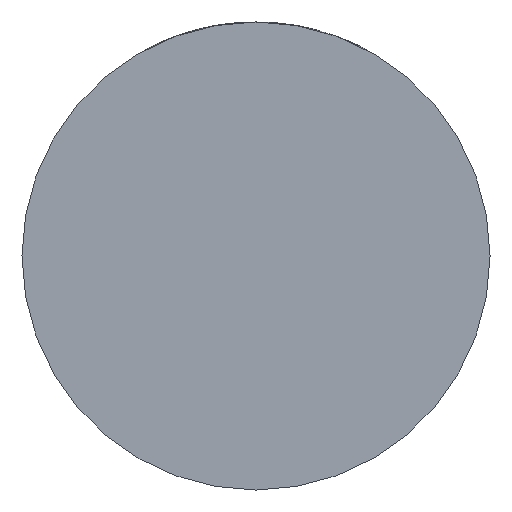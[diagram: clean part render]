
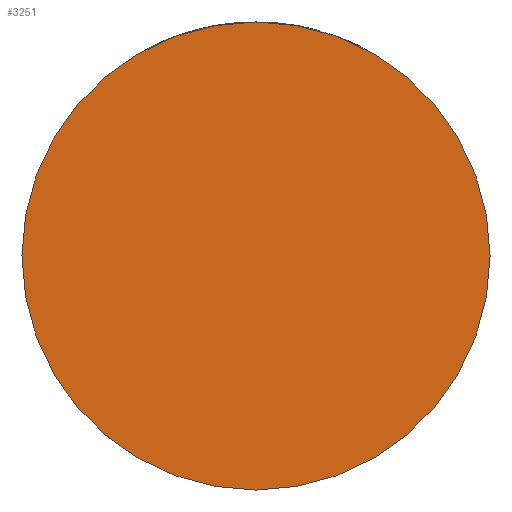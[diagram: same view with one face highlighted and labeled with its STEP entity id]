
A CAD part, front view. The second image highlights one B-rep face of the part: STEP entity #3251.
In plain terms, the highlighted planar face has unit normal (0, -1, 0).
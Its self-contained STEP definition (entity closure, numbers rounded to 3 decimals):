
#35 = DIRECTION ( 'NONE',  ( 0., -1., 0. ) ) ;
#125 = DIRECTION ( 'NONE',  ( 1., 0., 0. ) ) ;
#367 = VERTEX_POINT ( 'NONE', #4379 ) ;
#379 = CARTESIAN_POINT ( 'NONE',  ( 0., -39., 0. ) ) ;
#384 = EDGE_CURVE ( 'NONE', #367, #2228, #3691, .T. ) ;
#594 = PLANE ( 'NONE',  #2214 ) ;
#1527 = DIRECTION ( 'NONE',  ( 0., -1., 0. ) ) ;
#1938 = CARTESIAN_POINT ( 'NONE',  ( 0., -39., 0. ) ) ;
#1958 = ORIENTED_EDGE ( 'NONE', *, *, #3789, .T. ) ;
#2214 = AXIS2_PLACEMENT_3D ( 'NONE', #3262, #1527, #125 ) ;
#2228 = VERTEX_POINT ( 'NONE', #4139 ) ;
#2493 = DIRECTION ( 'NONE',  ( 1., 0., 0. ) ) ;
#2593 = AXIS2_PLACEMENT_3D ( 'NONE', #1938, #4059, #3680 ) ;
#2907 = AXIS2_PLACEMENT_3D ( 'NONE', #379, #35, #2493 ) ;
#3125 = CIRCLE ( 'NONE', #2907, 39. ) ;
#3251 = ADVANCED_FACE ( 'NONE', ( #3732 ), #594, .T. ) ;
#3262 = CARTESIAN_POINT ( 'NONE',  ( 0., -39., 0. ) ) ;
#3680 = DIRECTION ( 'NONE',  ( 1., 0., 0. ) ) ;
#3691 = CIRCLE ( 'NONE', #2593, 39. ) ;
#3732 = FACE_OUTER_BOUND ( 'NONE', #4547, .T. ) ;
#3744 = ORIENTED_EDGE ( 'NONE', *, *, #384, .T. ) ;
#3789 = EDGE_CURVE ( 'NONE', #2228, #367, #3125, .T. ) ;
#4059 = DIRECTION ( 'NONE',  ( 0., -1., 0. ) ) ;
#4139 = CARTESIAN_POINT ( 'NONE',  ( -39., -39., 0. ) ) ;
#4379 = CARTESIAN_POINT ( 'NONE',  ( 39., -39., 0. ) ) ;
#4547 = EDGE_LOOP ( 'NONE', ( #1958, #3744 ) ) ;
